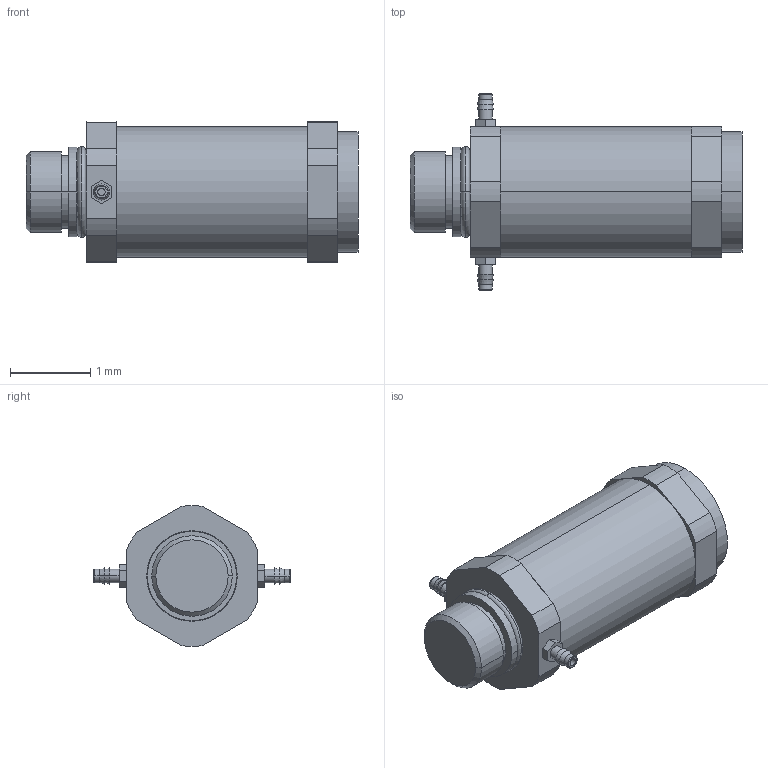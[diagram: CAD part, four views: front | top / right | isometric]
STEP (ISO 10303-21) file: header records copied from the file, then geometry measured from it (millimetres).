
FILE_DESCRIPTION((''),'2;1');
FILE_NAME('XGR4.stp','2017-11-07T11:43:38',(''),(''),'Mechanical Desktop 2011','Mechanical Desktop 2011',', , ');
FILE_SCHEMA(('CONFIG_CONTROL_DESIGN'));
Length unit declared in the file: millimetre
Products named in the file (1): Product
Bounding box: 4.12 x 2.44 x 1.75 mm (x, y, z)
Volume: 7.7 mm3; surface area: 39.1 mm2
Topology: 7 solids, 7 shells, 100 faces, 220 edges, 142 vertices
Faces by surface type: plane 46, cylinder 36, cone 10, torus 8
Entity records: 2869 total; most frequent: DIRECTION 524, CARTESIAN_POINT 463, ORIENTED_EDGE 440, EDGE_CURVE 220, AXIS2_PLACEMENT_3D 203, VERTEX_POINT 142, VECTOR 118, LINE 118
